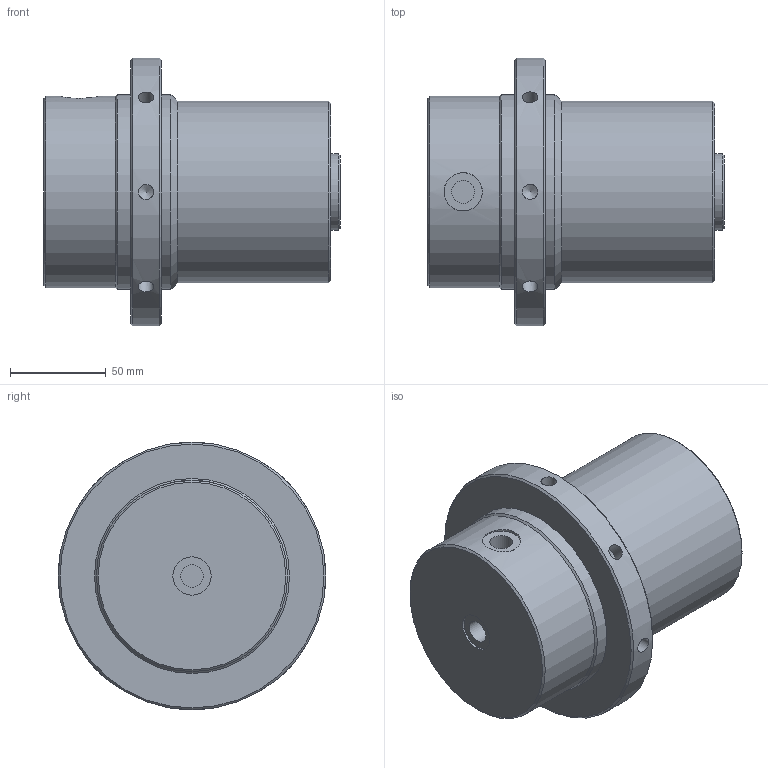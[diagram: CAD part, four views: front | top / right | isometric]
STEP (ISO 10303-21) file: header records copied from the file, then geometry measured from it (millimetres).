
FILE_DESCRIPTION( ( 'Unknown' ), '1' );
FILE_NAME( 'F:/JAKOB-STEP+IGES-Dateien/STEP-Dateien/ZSF/ZSF 10000 - 2.stp', 'Unknown', ( 'Unknown' ), ( 'Unknown' ), 'XStep 1.0', 'Unknown', ' ' );
FILE_SCHEMA( ( 'CONFIG_CONTROL_DESIGN' ) );
Length unit declared in the file: millimetre
Products named in the file (1): 1
Bounding box: 155 x 140 x 140 mm (x, y, z)
Volume: 1201670 mm3; surface area: 86522.9 mm2
Topology: 1 solids, 1 shells, 45 faces, 106 edges, 68 vertices
Faces by surface type: cylinder 19, cone 17, plane 9
Full cylindrical faces by diameter (mm): 8 x8, 12 x2, 20 x2, 26.5 x1, 40 x1, 95 x1, 100 x1, 102 x2, 140 x1
Entity records: 1561 total; most frequent: CARTESIAN_POINT 757, DIRECTION 162, EDGE_LOOP 88, ORIENTED_EDGE 88, AXIS2_PLACEMENT_3D 81, FACE_OUTER_BOUND 64, VERTEX_POINT 53, ADVANCED_FACE 45
